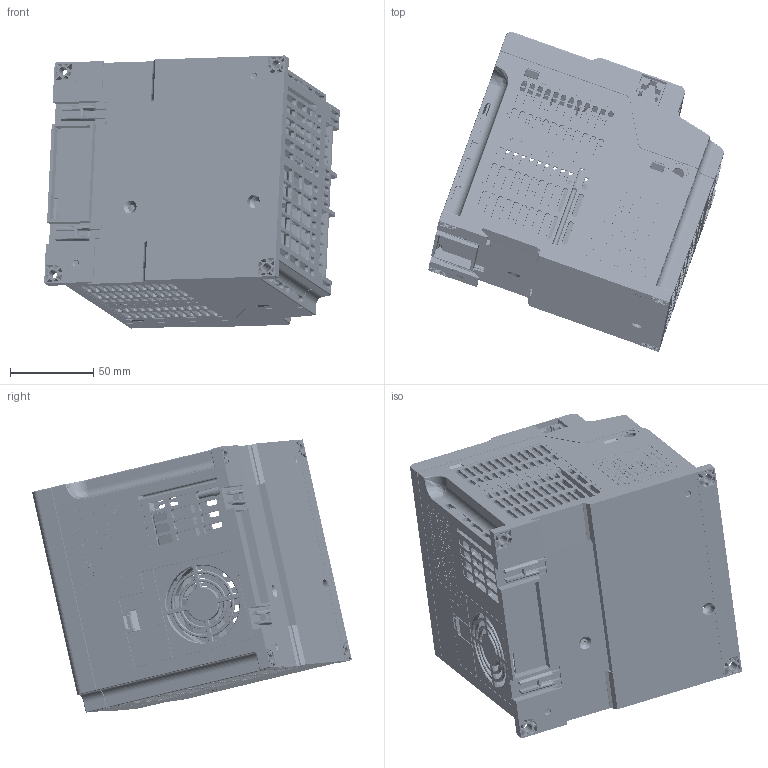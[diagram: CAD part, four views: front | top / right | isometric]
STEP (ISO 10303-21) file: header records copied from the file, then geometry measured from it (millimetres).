
FILE_DESCRIPTION((''),'2;1');
FILE_NAME('C:\Users\1\Desktop\SC3-B.stp','2015-11-11T11:56:57',('1'),(''),'Autodesk Inventor 2013','Autodesk Inventor 2013','');
FILE_SCHEMA(('AUTOMOTIVE_DESIGN { 1 0 10303 214 1 1 1 1 }'));
Length unit declared in the file: millimetre
Products named in the file (29): SC3-B; 主回路组立; 1777600_MKDS 5N HV 8-ZB-6.35; mkds_5n_hv-8-zb-6.35; 1777600_MKDS 5N HV 8-ZB-6.35-2PIN; mkds_5n_hv-8-zb-6.35_1; SC3 控制板组立; _X2_5F005173_X0__SS-22D38G2_SK591P06001; _X2_8FDE63A54EF6_X0__YH-55-05-5521-8P_SS980P11001; 22N8242-28C10B-01G-3.4-R4A-GR01; _X2_63926BCD_X0_; _X2_63929488_X0_; _X2_5F005173_X0__R126ECA-D1-8; _X2_8FDE63A54EF6_X0__p8552-14s10-01t; PU301 LED; DG125-5.0-12P-14-03AH; E1-5028AHR1; DTSM-65N-V-T-R; 控制板基板-0521; SC3-A旋钮帽; SC3-B 上盖; 机种铭板.0004; 薄膜开关; 警语; 控制回路铭板; 制造铭板; B框架主回路贴纸; SC3-B xiagai-YD; SC3-B fengshangai_YD
Assembly tree (62 placements, depth 4):
  SC3-B
    主回路组立
      1777600_MKDS 5N HV 8-ZB-6.35
        mkds_5n_hv-8-zb-6.35
      1777600_MKDS 5N HV 8-ZB-6.35-2PIN  x2
        mkds_5n_hv-8-zb-6.35_1
    SC3 控制板组立
      _X2_5F005173_X0__SS-22D38G2_SK591P06001  x2
      _X2_8FDE63A54EF6_X0__YH-55-05-5521-8P_SS980P11001
      22N8242-28C10B-01G-3.4-R4A-GR01
        _X2_63926BCD_X0_
        _X2_63929488_X0_  x24
      _X2_5F005173_X0__R126ECA-D1-8
      _X2_8FDE63A54EF6_X0__p8552-14s10-01t
      PU301 LED  x6
      DG125-5.0-12P-14-03AH
      E1-5028AHR1
      DTSM-65N-V-T-R  x5
      控制板基板-0521
      SC3-A旋钮帽
    SC3-B 上盖
    机种铭板.0004
    薄膜开关
    警语
    控制回路铭板
    制造铭板
    B框架主回路贴纸
    SC3-B xiagai-YD
    SC3-B fengshangai_YD
Bounding box: 177.41 x 191.86 x 163.92 mm (x, y, z)
Volume: 275028.9 mm3; surface area: 319782.5 mm2
Topology: 67 solids, 67 shells, 16555 faces, 45707 edges, 31517 vertices
Faces by surface type: plane 10724, bspline 4156, cylinder 924, cone 646, torus 86, sphere 19
Full cylindrical faces by diameter (mm): 0.43 x3, 0.7 x8, 0.8 x5, 1 x2, 1.2 x2, 1.3 x10, 1.5 x2, 2 x2, 2.36 x2, 2.5 x1, 3 x13, 3.2 x1, 4 x12, 4.726 x1, 5 x12, 5.4 x10, 5.6 x1, 6.8 x1, 8 x1, 10 x1, 12 x1, 25 x1, 27 x1
Entity records: 533487 total; most frequent: CARTESIAN_POINT 157460, ORIENTED_EDGE 83506, DIRECTION 60539, EDGE_CURVE 41753, VECTOR 30499, LINE 30499, VERTEX_POINT 27743, EDGE_LOOP 17572
